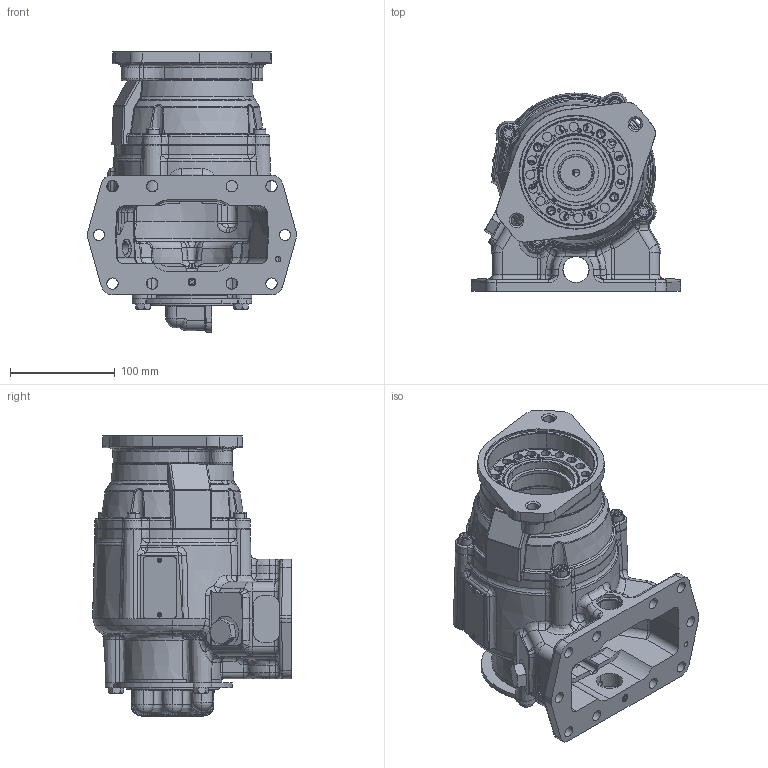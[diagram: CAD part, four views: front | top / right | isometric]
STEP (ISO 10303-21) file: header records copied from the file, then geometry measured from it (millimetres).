
FILE_DESCRIPTION (( 'STEP AP203' ), '1' );
FILE_NAME ('A30-A10XX-MX5PSPX.STEP', '2023-03-31T18:14:29', ( '' ), ( '' ), 'SwSTEP 2.0', 'SolidWorks 2021', '' );
FILE_SCHEMA (( 'CONFIG_CONTROL_DESIGN' ));
Length unit declared in the file: inch
Products named in the file (10): 25T35999TMP; 19T3314_RearCover_HexHeadCapScrew_19T33134; A30-A10XX-MX5PSPX; Part6^A30-A10XX-MX5PSPX; 15T65391DB3; 14T65650; RemoteMountRearCover; 01T43513_5Arrangement; 15T64348_DIECAST DESIGN; 19T36588_19T36588
Assembly tree (13 placements, depth 2):
  A30-A10XX-MX5PSPX
    01T43513_5Arrangement
    14T65650
    15T65391DB3
    19T36588_19T36588  x4
    RemoteMountRearCover
    15T64348_DIECAST DESIGN
    19T3314_RearCover_HexHeadCapScrew_19T33134  x3
    25T35999TMP
  Part6^A30-A10XX-MX5PSPX
Bounding box: 199.82 x 190.12 x 267.67 mm (x, y, z)
Volume: 1452898.3 mm3; surface area: 413485 mm2
Topology: 24 solids, 24 shells, 2752 faces, 6797 edges, 4148 vertices
Faces by surface type: plane 843, bspline 821, cylinder 580, cone 334, torus 162, sphere 12
Entity records: 118987 total; most frequent: CARTESIAN_POINT 60274, ORIENTED_EDGE 12940, DIRECTION 10598, EDGE_CURVE 6470, VERTEX_POINT 4005, AXIS2_PLACEMENT_3D 3925, EDGE_LOOP 2909, LINE 2748
